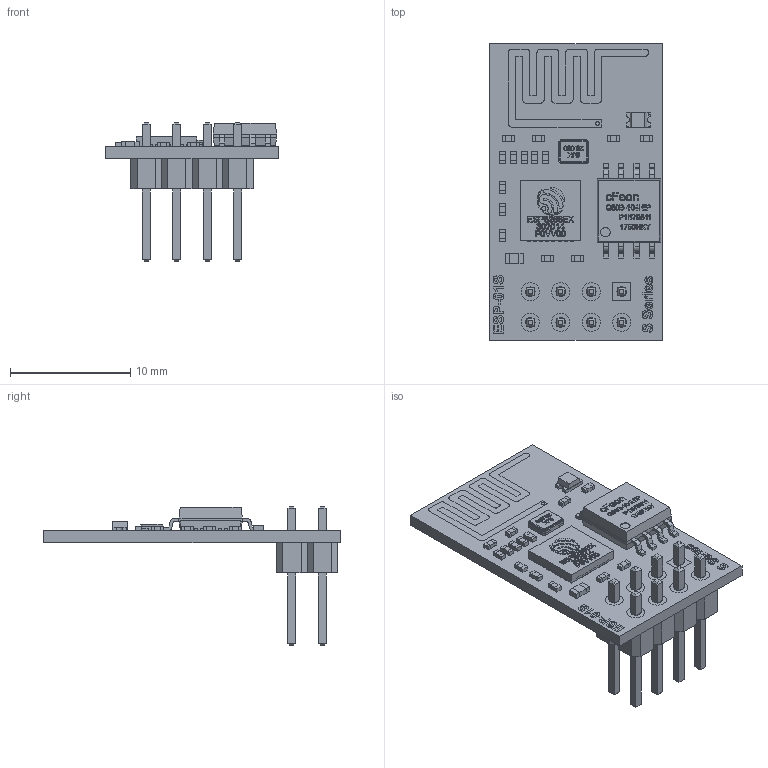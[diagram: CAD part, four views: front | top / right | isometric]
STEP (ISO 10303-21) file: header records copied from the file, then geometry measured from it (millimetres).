
FILE_DESCRIPTION(/* description */ (''),/* implementation_level */ '2;1');
FILE_NAME(/* name */ '/Users/achimpieters/Desktop/ESP8266-01 v7.step',/* time_stamp */ '2020-11-21T16:59:01+01:00',/* author */ (''),/* organization */ (''),/* preprocessor_version */ 'ST-DEVELOPER v18.1',/* originating_system */ 'Autodesk Translation Framework v9.3.0.1241',/* authorisation */ '');
FILE_SCHEMA (('AUTOMOTIVE_DESIGN { 1 0 10303 214 3 1 1 }'));
Products named in the file (1): ESP8266-01
Bounding box: 14.4 x 24.7 x 11.5 mm (x, y, z)
Volume: 698.3 mm3; surface area: 2140 mm2
Topology: 213 solids, 213 shells, 2807 faces, 7025 edges, 4646 vertices
Faces by surface type: plane 1539, bspline 1103, cylinder 161, torus 4
Full cylindrical faces by diameter (mm): 0.1 x1, 0.3 x1, 0.8 x17, 1.5 x7
Entity records: 92821 total; most frequent: CARTESIAN_POINT 32890, ORIENTED_EDGE 14050, DIRECTION 8555, EDGE_CURVE 7025, VERTEX_POINT 4646, LINE 4493, VECTOR 4493, EDGE_LOOP 2915
